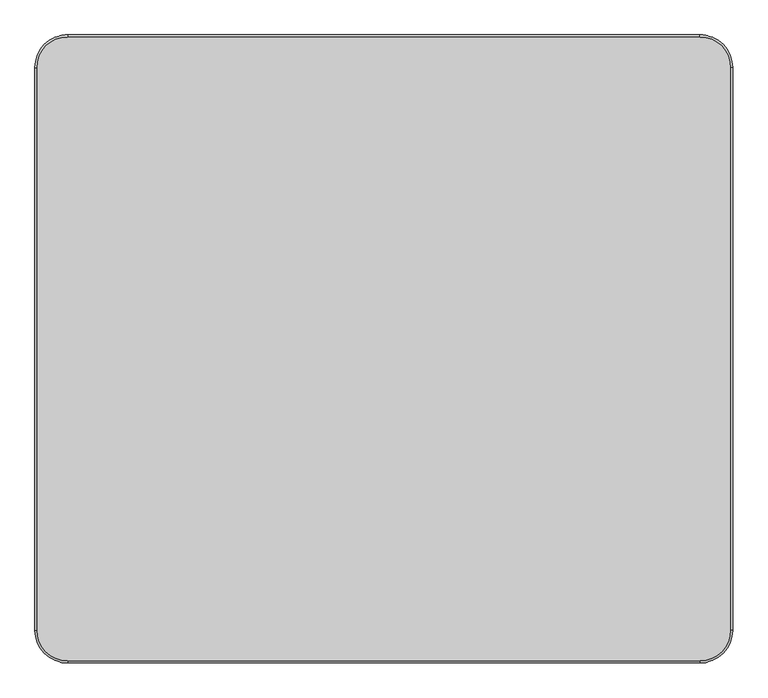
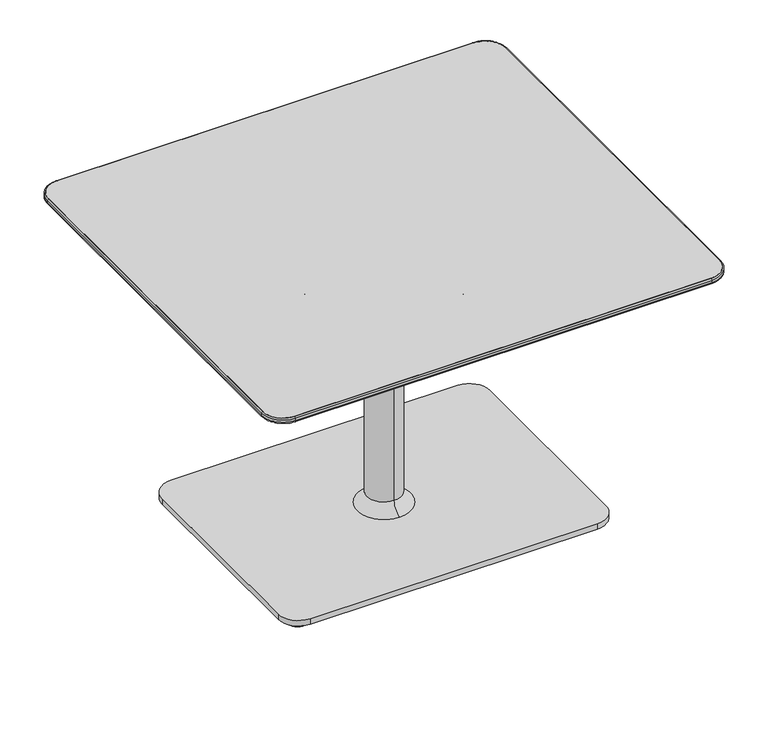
"""IFC4 building model written with IfcOpenShell, lengths in millimetres: furniture geometry, Coalesse_AM_Table_Occasional_Lagunitas_Work : 26H x 36D x 40W."""

from ifc_helpers import new_model, si_unit, point, frame, frame_2d, origin, origin_with_axes, place, context, project, spatial, polyline, circle_curve, ellipse_curve, trimmed, segment, composite_curve, outline, extrude, source, transform, mapped, element, save
from ifc_brep_helpers import plane_surface, cylinder_surface, revolved_surface, spline_surface, advanced_brep


def furniture_a224f28c(model_context):
    return source(origin(), model_context, "Body", "SolidModel", [
        advanced_brep(
        [(505.2570059, 409.7063839, 648.3724172), (460.8070059, 454.1563839, 648.3724172), (-460.1969941, 454.1563839, 648.3724172), (-504.6469941, 409.7063839, 648.3724172), (-504.6469941, -409.7063839, 648.3724172), (-460.1969941, -454.1563839, 648.3724172), (460.8070059, -454.1563839, 648.3724172), (505.2570059, -409.7063839, 648.3724172), (437.4389826, 386.3390054, 630.3099277), (437.4389826, -386.3390054, 630.3099277), (-436.8289709, -386.3390054, 630.3099277), (-436.8289709, 386.3390054, 630.3099277)],
        [
            (0, 1, circle_curve(frame((460.8070059, 409.7063839, 648.3724172), z_axis=(0.0, 0.0, 1.0), x_axis=(1.0, 0.0, 0.0)), 44.45)),
            (1, 2),
            (2, 3, circle_curve(frame((-460.1969941, 409.7063839, 648.3724172), z_axis=(0.0, 0.0, 1.0), x_axis=(1.0, 0.0, 0.0)), 44.45)),
            (3, 4),
            (4, 5, circle_curve(frame((-460.1969941, -409.7063839, 648.3724172), z_axis=(0.0, 0.0, 1.0), x_axis=(1.0, 0.0, 0.0)), 44.45)),
            (5, 6),
            (6, 7, circle_curve(frame((460.8070059, -409.7063839, 648.3724172), z_axis=(0.0, 0.0, 1.0), x_axis=(1.0, 0.0, 0.0)), 44.45)),
            (7, 0),
            (8, 9),
            (9, 10),
            (10, 11),
            (11, 8),
            (0, 8),
            (8, 1),
            (11, 2),
            (11, 3),
            (10, 4),
            (10, 5),
            (9, 6),
            (9, 7),
        ],
        [
            plane_surface(frame((0.3050059, 0.0, 648.3724172), z_axis=(0.0, 0.0, 1.0), x_axis=(-1.0, 0.0, 0.0))),
            plane_surface(frame((0.3050059, 0.0, 630.3099277), z_axis=(0.0, 0.0, -1.0), x_axis=(-1.0, 0.0, 0.0))),
            spline_surface(2, 1, [[(437.4389826, 386.3390054, 630.3099277), (505.2570059, 409.7063839, 648.3724172)], [(437.4389826, 386.3390054, 630.3099277), (505.2570059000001, 454.15638390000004, 648.3724172)], [(437.4389826, 386.3390054, 630.3099277), (460.8070059, 454.1563839, 648.3724172)]], [3, 3], [2, 2], [0.0, 1.0], [0.0, 1.0], weights=[[1.0, 1.0], [0.7071067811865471, 0.7071067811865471], [1.0, 1.0]]),
            plane_surface(frame((0.3050059, 386.3390054, 630.3099277), z_axis=(0.0, 0.2573680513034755, -0.9663134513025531), x_axis=(-1.0, 0.0, 0.0))),
            spline_surface(2, 1, [[(-436.8289709, 386.3390054, 630.3099277), (-460.1969941, 454.1563839, 648.3724172)], [(-436.8289709, 386.3390054, 630.3099277), (-504.6469941, 454.1563839, 648.3724172)], [(-436.8289709, 386.3390054, 630.3099277), (-504.6469941, 409.7063839, 648.3724172)]], [3, 3], [2, 2], [0.0, 1.0], [0.0, 1.0], weights=[[1.0, 1.0], [0.7071067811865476, 0.7071067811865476], [1.0, 1.0]]),
            plane_surface(frame((-436.8289709, 0.0, 630.3099277), z_axis=(-0.25736576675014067, 0.0, -0.9663140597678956), x_axis=(0.0, -1.0, 0.0))),
            spline_surface(2, 1, [[(-436.8289709, -386.3390054, 630.3099277), (-504.6469941, -409.7063839, 648.3724172)], [(-436.8289709, -386.3390054, 630.3099277), (-504.6469941, -454.1563839, 648.3724172)], [(-436.8289709, -386.3390054, 630.3099277), (-460.1969941, -454.1563839, 648.3724172)]], [3, 3], [2, 2], [0.0, 1.0], [0.0, 1.0], weights=[[1.0, 1.0], [0.7071067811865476, 0.7071067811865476], [1.0, 1.0]]),
            plane_surface(frame((0.3050059, -386.3390054, 630.3099277), z_axis=(0.0, -0.2573680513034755, -0.9663134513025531), x_axis=(1.0, 0.0, 0.0))),
            spline_surface(2, 1, [[(437.4389826, -386.3390054, 630.3099277), (460.8070059, -454.1563839, 648.3724172)], [(437.4389826, -386.3390054, 630.3099277), (505.25700589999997, -454.1563838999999, 648.3724172)], [(437.4389826, -386.3390054, 630.3099277), (505.2570059, -409.7063839, 648.3724172)]], [3, 3], [2, 2], [0.0, 1.0], [0.0, 1.0], weights=[[1.0, 1.0], [0.707106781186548, 0.707106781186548], [1.0, 1.0]]),
            plane_surface(frame((437.4389826, 0.0, 630.3099277), z_axis=(0.2573657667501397, 0.0, -0.966314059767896), x_axis=(0.0, 1.0, 0.0))),
        ],
        [
            (0, [[1, 2, 3, 4, 5, 6, 7, 8]]),
            (1, [[9, 10, 11, 12]]),
            (2, [[-1, 13, 14]]),
            (3, [[-12, 15, -2, -14]]),
            (4, [[-3, -15, 16]]),
            (5, [[-11, 17, -4, -16]]),
            (6, [[-5, -17, 18]]),
            (7, [[-10, 19, -6, -18]]),
            (8, [[-7, -19, 20]]),
            (9, [[-9, -13, -8, -20]]),
        ],
    ),
        extrude(outline(composite_curve([segment(trimmed(circle_curve(frame_2d((460.8070059, 409.7063839)), 44.45), [point((460.8070059, 454.1563839))], [point((505.2570059, 409.7063839))], False, "CARTESIAN"), True, "CONTINUOUS"), segment(polyline([(505.2570059, 409.7063839), (505.2570059, -409.7063839)]), True, "CONTINUOUS"), segment(trimmed(circle_curve(frame_2d((460.8070059, -409.7063839)), 44.45), [point((505.2570059, -409.7063839))], [point((460.8070059, -454.1563839))], False, "CARTESIAN"), True, "CONTINUOUS"), segment(polyline([(460.8070059, -454.1563839), (-460.1969941, -454.1563839)]), True, "CONTINUOUS"), segment(trimmed(circle_curve(frame_2d((-460.1969941, -409.7063839)), 44.45), [point((-460.1969941, -454.1563839))], [point((-504.6469941, -409.7063839))], False, "CARTESIAN"), True, "CONTINUOUS"), segment(polyline([(-504.6469941, -409.7063839), (-504.6469941, 409.7063839)]), True, "CONTINUOUS"), segment(trimmed(circle_curve(frame_2d((-460.1969941, 409.7063839)), 44.45), [point((-504.6469941, 409.7063839))], [point((-460.1969941, 454.1563839))], False, "CARTESIAN"), True, "CONTINUOUS"), segment(polyline([(-460.1969941, 454.1563839), (460.8070059, 454.1563839)]), True, "CONTINUOUS")], self_intersect=False)), frame((0.0, 0.0, 648.3724172), z_axis=(0.0, 0.0, 1.0), x_axis=(1.0, 0.0, 0.0)), (0.0, 0.0, 1.0), 12.0275828),
        extrude(outline(composite_curve([segment(trimmed(circle_curve(frame_2d((-321.7443146, 226.8029495)), 25.4), [point((-347.1443146, 226.8029495))], [point((-296.3443146, 226.8029495))], False, "CARTESIAN"), True, "CONTINUOUS"), segment(trimmed(circle_curve(frame_2d((-321.7443146, 226.8029495)), 25.4), [point((-296.3443146, 226.8029495))], [point((-347.1443146, 226.8029495))], False, "CARTESIAN"), True, "CONTINUOUS")], self_intersect=False)), origin_with_axes(), (0.0, 0.0, 1.0), 10.6571495),
        extrude(outline(composite_curve([segment(trimmed(circle_curve(frame_2d((322.3543263, 226.8029495)), 25.4), [point((296.9543263, 226.8029495))], [point((347.7543263, 226.8029495))], False, "CARTESIAN"), True, "CONTINUOUS"), segment(trimmed(circle_curve(frame_2d((322.3543263, 226.8029495)), 25.4), [point((347.7543263, 226.8029495))], [point((296.9543263, 226.8029495))], False, "CARTESIAN"), True, "CONTINUOUS")], self_intersect=False)), origin_with_axes(), (0.0, 0.0, 1.0), 10.6571495),
        extrude(outline(composite_curve([segment(trimmed(circle_curve(frame_2d((322.3543263, -226.8029495)), 25.4), [point((296.9543263, -226.8029495))], [point((347.7543263, -226.8029495))], False, "CARTESIAN"), True, "CONTINUOUS"), segment(trimmed(circle_curve(frame_2d((322.3543263, -226.8029495)), 25.4), [point((347.7543263, -226.8029495))], [point((296.9543263, -226.8029495))], False, "CARTESIAN"), True, "CONTINUOUS")], self_intersect=False)), origin_with_axes(), (0.0, 0.0, 1.0), 10.6571495),
        extrude(outline(composite_curve([segment(trimmed(circle_curve(frame_2d((-321.7443146, -226.8029495)), 25.4), [point((-347.1443146, -226.8029495))], [point((-296.3443146, -226.8029495))], False, "CARTESIAN"), True, "CONTINUOUS"), segment(trimmed(circle_curve(frame_2d((-321.7443146, -226.8029495)), 25.4), [point((-296.3443146, -226.8029495))], [point((-347.1443146, -226.8029495))], False, "CARTESIAN"), True, "CONTINUOUS")], self_intersect=False)), origin_with_axes(), (0.0, 0.0, 1.0), 10.6571495),
        extrude(outline(composite_curve([segment(trimmed(circle_curve(frame_2d((317.8050059, 222.2481833)), 44.45), [point((317.8050059, 266.6981833))], [point((362.2550059, 222.2481833))], False, "CARTESIAN"), True, "CONTINUOUS"), segment(polyline([(362.2550059, 222.2481833), (362.2550059, -222.2481833)]), True, "CONTINUOUS"), segment(trimmed(circle_curve(frame_2d((317.8050059, -222.2481833)), 44.45), [point((362.2550059, -222.2481833))], [point((317.8050059, -266.6981833))], False, "CARTESIAN"), True, "CONTINUOUS"), segment(polyline([(317.8050059, -266.6981833), (-317.1949941, -266.6981833)]), True, "CONTINUOUS"), segment(trimmed(circle_curve(frame_2d((-317.1949941, -222.2481833)), 44.45), [point((-317.1949941, -266.6981833))], [point((-361.6449941, -222.2481833))], False, "CARTESIAN"), True, "CONTINUOUS"), segment(polyline([(-361.6449941, -222.2481833), (-361.6449941, 222.2481833)]), True, "CONTINUOUS"), segment(trimmed(circle_curve(frame_2d((-317.1949941, 222.2481833)), 44.45), [point((-361.6449941, 222.2481833))], [point((-317.1949941, 266.6981833))], False, "CARTESIAN"), True, "CONTINUOUS"), segment(polyline([(-317.1949941, 266.6981833), (317.8050059, 266.6981833)]), True, "CONTINUOUS")], self_intersect=False)), frame((0.0, 0.0, 10.6571495), z_axis=(0.0, 0.0, 1.0), x_axis=(1.0, 0.0, 0.0)), (0.0, 0.0, 1.0), 12.7000004),
        advanced_brep(
        [(-507.6930954, 409.7063839, 652.1656816), (-460.1969941, 457.2024852, 652.1656816), (-460.1969941, 454.1563839, 648.3724172), (-504.6469941, 409.7063839, 648.3724172), (-507.6930954, 409.7063839, 657.3538988), (-460.1969941, 457.2024852, 657.3538988), (-504.6469941, 409.7063839, 660.4), (-460.1969941, 454.1563839, 660.4), (-504.6469941, -409.7063839, 648.3724172), (-507.6930954, -409.7063839, 652.1656816), (-507.6930954, -409.7063839, 657.3538988), (-504.6469941, -409.7063839, 660.4), (-460.1969941, -457.2024852, 652.1656816), (-460.1969941, -454.1563839, 648.3724172), (-460.1969941, -457.2024852, 657.3538988), (-460.1969941, -454.1563839, 660.4), (460.8070059, -454.1563839, 648.3724172), (460.8070059, -457.2024852, 652.1656816), (460.8070059, -457.2024852, 657.3538988), (460.8070059, -454.1563839, 660.4), (508.3031071, -409.7063839, 652.1656816), (505.2570059, -409.7063839, 648.3724172), (508.3031071, -409.7063839, 657.3538988), (505.2570059, -409.7063839, 660.4), (505.2570059, 409.7063839, 648.3724172), (508.3031071, 409.7063839, 652.1656816), (508.3031071, 409.7063839, 657.3538988), (505.2570059, 409.7063839, 660.4), (460.8070059, 457.2024852, 652.1656816), (460.8070059, 454.1563839, 648.3724172), (460.8070059, 457.2024852, 657.3538988), (460.8070059, 454.1563839, 660.4)],
        [
            (0, 1, circle_curve(frame((-460.1969941, 409.7063839, 652.1656816), z_axis=(0.0, 0.0, -1.0), x_axis=(0.0, 1.0, 0.0)), 47.4961012)),
            (1, 2, circle_curve(frame((-460.1969941, 453.3175869, 652.1656816), z_axis=(-1.0, 0.0, 0.0), x_axis=(0.0, -1.0, 0.0)), 3.8848983)),
            (2, 3, circle_curve(frame((-460.1969941, 409.7063839, 648.3724172), z_axis=(0.0, 0.0, 1.0), x_axis=(0.0, 1.0, 0.0)), 44.45)),
            (3, 0, circle_curve(frame((-503.8081971, 409.7063839, 652.1656816), z_axis=(0.0, 1.0, 0.0), x_axis=(1.0, 0.0, 0.0)), 3.8848983)),
            (4, 5, circle_curve(frame((-460.1969941, 409.7063839, 657.3538988), z_axis=(0.0, 0.0, -1.0), x_axis=(0.0, 1.0, 0.0)), 47.4961012)),
            (5, 1),
            (0, 4),
            (6, 7, circle_curve(frame((-460.1969941, 409.7063839, 660.4), z_axis=(0.0, 0.0, -1.0), x_axis=(0.0, 1.0, 0.0)), 44.45)),
            (7, 5, circle_curve(frame((-460.1969941, 454.1563839, 657.3538988), z_axis=(-1.0, 0.0, 0.0), x_axis=(0.0, -1.0, 0.0)), 3.0461012)),
            (4, 6, circle_curve(frame((-504.6469941, 409.7063839, 657.3538988), z_axis=(0.0, 1.0, 0.0), x_axis=(1.0, 0.0, 0.0)), 3.0461012)),
            (2, 7),
            (6, 3),
            (3, 8),
            (8, 9, circle_curve(frame((-503.8081971, -409.7063839, 652.1656816), z_axis=(0.0, 1.0, 0.0), x_axis=(1.0, 0.0, 0.0)), 3.8848983)),
            (9, 0),
            (9, 10),
            (10, 4),
            (10, 11, circle_curve(frame((-504.6469941, -409.7063839, 657.3538988), z_axis=(0.0, 1.0, 0.0), x_axis=(1.0, 0.0, 0.0)), 3.0461012)),
            (11, 6),
            (11, 8),
            (12, 9, circle_curve(frame((-460.1969941, -409.7063839, 652.1656816), z_axis=(0.0, 0.0, -1.0), x_axis=(-1.0, 0.0, 0.0)), 47.4961012)),
            (8, 13, circle_curve(frame((-460.1969941, -409.7063839, 648.3724172), z_axis=(0.0, 0.0, 1.0), x_axis=(-1.0, 0.0, 0.0)), 44.45)),
            (13, 12, circle_curve(frame((-460.1969941, -453.3175869, 652.1656816), z_axis=(-1.0, 0.0, 0.0), x_axis=(0.0, 1.0, 0.0)), 3.8848983)),
            (14, 10, circle_curve(frame((-460.1969941, -409.7063839, 657.3538988), z_axis=(0.0, 0.0, -1.0), x_axis=(-1.0, 0.0, 0.0)), 47.4961012)),
            (12, 14),
            (15, 11, circle_curve(frame((-460.1969941, -409.7063839, 660.4), z_axis=(0.0, 0.0, -1.0), x_axis=(-1.0, 0.0, 0.0)), 44.45)),
            (14, 15, circle_curve(frame((-460.1969941, -454.1563839, 657.3538988), z_axis=(-1.0, 0.0, 0.0), x_axis=(0.0, 1.0, 0.0)), 3.0461012)),
            (15, 13),
            (13, 16),
            (16, 17, circle_curve(frame((460.8070059, -453.3175869, 652.1656816), z_axis=(-1.0, 0.0, 0.0), x_axis=(0.0, 1.0, 0.0)), 3.8848983)),
            (17, 12),
            (17, 18),
            (18, 14),
            (18, 19, circle_curve(frame((460.8070059, -454.1563839, 657.3538988), z_axis=(-1.0, 0.0, 0.0), x_axis=(0.0, 1.0, 0.0)), 3.0461012)),
            (19, 15),
            (19, 16),
            (20, 17, circle_curve(frame((460.8070059, -409.7063839, 652.1656816), z_axis=(0.0, 0.0, -1.0), x_axis=(0.0, -1.0, 0.0)), 47.4961012)),
            (16, 21, circle_curve(frame((460.8070059, -409.7063839, 648.3724172), z_axis=(0.0, 0.0, 1.0), x_axis=(0.0, -1.0, 0.0)), 44.45)),
            (21, 20, circle_curve(frame((504.4182088, -409.7063839, 652.1656816), z_axis=(0.0, -1.0, 0.0), x_axis=(-1.0, 0.0, 0.0)), 3.8848983)),
            (22, 18, circle_curve(frame((460.8070059, -409.7063839, 657.3538988), z_axis=(0.0, 0.0, -1.0), x_axis=(0.0, -1.0, 0.0)), 47.4961012)),
            (20, 22),
            (23, 19, circle_curve(frame((460.8070059, -409.7063839, 660.4), z_axis=(0.0, 0.0, -1.0), x_axis=(0.0, -1.0, 0.0)), 44.45)),
            (22, 23, circle_curve(frame((505.2570059, -409.7063839, 657.3538988), z_axis=(0.0, -1.0, 0.0), x_axis=(-1.0, 0.0, 0.0)), 3.0461012)),
            (23, 21),
            (21, 24),
            (24, 25, circle_curve(frame((504.4182088, 409.7063839, 652.1656816), z_axis=(0.0, -1.0, 0.0), x_axis=(-1.0, 0.0, 0.0)), 3.8848983)),
            (25, 20),
            (25, 26),
            (26, 22),
            (26, 27, circle_curve(frame((505.2570059, 409.7063839, 657.3538988), z_axis=(0.0, -1.0, 0.0), x_axis=(-1.0, 0.0, 0.0)), 3.0461012)),
            (27, 23),
            (27, 24),
            (28, 25, circle_curve(frame((460.8070059, 409.7063839, 652.1656816), z_axis=(0.0, 0.0, -1.0), x_axis=(1.0, 0.0, 0.0)), 47.4961012)),
            (24, 29, circle_curve(frame((460.8070059, 409.7063839, 648.3724172), z_axis=(0.0, 0.0, 1.0), x_axis=(1.0, 0.0, 0.0)), 44.45)),
            (29, 28, circle_curve(frame((460.8070059, 453.3175869, 652.1656816), z_axis=(1.0, 0.0, 0.0), x_axis=(0.0, -1.0, 0.0)), 3.8848983)),
            (30, 26, circle_curve(frame((460.8070059, 409.7063839, 657.3538988), z_axis=(0.0, 0.0, -1.0), x_axis=(1.0, 0.0, 0.0)), 47.4961012)),
            (28, 30),
            (31, 27, circle_curve(frame((460.8070059, 409.7063839, 660.4), z_axis=(0.0, 0.0, -1.0), x_axis=(1.0, 0.0, 0.0)), 44.45)),
            (30, 31, circle_curve(frame((460.8070059, 454.1563839, 657.3538988), z_axis=(1.0, 0.0, 0.0), x_axis=(0.0, -1.0, 0.0)), 3.0461012)),
            (31, 29),
            (29, 2),
            (1, 28),
            (5, 30),
            (7, 31),
        ],
        [
            revolved_surface(trimmed(ellipse_curve(frame((-460.1969941, 453.3175869, 652.1656816), z_axis=(1.0, 0.0, 0.0), x_axis=(0.0, -1.0, 0.0)), 3.8848983, 3.8848983), [point((-460.1969941, 454.1563839, 648.3724172))], [point((-460.1969941, 457.2024852, 652.1656816))], True, "CARTESIAN"), (-460.1969941, 409.7063839, 0.0), (0.0, 0.0, 1.0)),
            cylinder_surface(frame((-460.1969941, 409.7063839, 0.0), z_axis=(0.0, 0.0, 1.0), x_axis=(0.0, 1.0, 0.0)), 47.4961012),
            revolved_surface(trimmed(ellipse_curve(frame((-460.1969941, 454.1563839, 657.3538988), z_axis=(1.0, 0.0, 0.0), x_axis=(0.0, -1.0, 0.0)), 3.0461012, 3.0461012), [point((-460.1969941, 457.2024852, 657.3538988))], [point((-460.1969941, 454.1563839, 660.4))], True, "CARTESIAN"), (-460.1969941, 409.7063839, 0.0), (0.0, 0.0, 1.0)),
            revolved_surface(polyline([(-460.1969941, 454.1563839, 660.4), (-460.1969941, 454.1563839, 648.3724172)]), (-460.1969941, 409.7063839, 0.0), (0.0, 0.0, 1.0)),
            cylinder_surface(frame((-503.8081971, 409.7063839, 652.1656816), z_axis=(0.0, 1.0, 0.0), x_axis=(1.0, 0.0, 0.0)), 3.8848983),
            plane_surface(frame((-507.6930954, 409.7063839, 652.1656816), z_axis=(-1.0, 0.0, 0.0), x_axis=(0.0, -1.0, 0.0))),
            cylinder_surface(frame((-504.6469941, 409.7063839, 657.3538988), z_axis=(0.0, 1.0, 0.0), x_axis=(1.0, 0.0, 0.0)), 3.0461012),
            plane_surface(frame((-504.6469941, 409.7063839, 660.4), z_axis=(1.0, 0.0, 0.0), x_axis=(0.0, -1.0, 0.0))),
            revolved_surface(trimmed(ellipse_curve(frame((-503.8081971, -409.7063839, 652.1656816), z_axis=(0.0, 1.0, 0.0), x_axis=(1.0, 0.0, 0.0)), 3.8848983, 3.8848983), [point((-504.6469941, -409.7063839, 648.3724172))], [point((-507.6930954, -409.7063839, 652.1656816))], True, "CARTESIAN"), (-460.1969941, -409.7063839, 0.0), (0.0, 0.0, 1.0)),
            cylinder_surface(frame((-460.1969941, -409.7063839, 0.0), z_axis=(0.0, 0.0, 1.0), x_axis=(-1.0, 0.0, 0.0)), 47.4961012),
            revolved_surface(trimmed(ellipse_curve(frame((-504.6469941, -409.7063839, 657.3538988), z_axis=(0.0, 1.0, 0.0), x_axis=(1.0, 0.0, 0.0)), 3.0461012, 3.0461012), [point((-507.6930954, -409.7063839, 657.3538988))], [point((-504.6469941, -409.7063839, 660.4))], True, "CARTESIAN"), (-460.1969941, -409.7063839, 0.0), (0.0, 0.0, 1.0)),
            revolved_surface(polyline([(-504.6469941, -409.7063839, 660.4), (-504.6469941, -409.7063839, 648.3724172)]), (-460.1969941, -409.7063839, 0.0), (0.0, 0.0, 1.0)),
            cylinder_surface(frame((-460.1969941, -453.3175869, 652.1656816), z_axis=(-1.0, 0.0, 0.0), x_axis=(0.0, 1.0, 0.0)), 3.8848983),
            plane_surface(frame((-460.1969941, -457.2024852, 652.1656816), z_axis=(0.0, -1.0, 0.0), x_axis=(1.0, 0.0, 0.0))),
            cylinder_surface(frame((-460.1969941, -454.1563839, 657.3538988), z_axis=(-1.0, 0.0, 0.0), x_axis=(0.0, 1.0, 0.0)), 3.0461012),
            plane_surface(frame((-460.1969941, -454.1563839, 660.4), z_axis=(0.0, 1.0, 0.0), x_axis=(1.0, 0.0, 0.0))),
            revolved_surface(trimmed(ellipse_curve(frame((460.8070059, -453.3175869, 652.1656816), z_axis=(-1.0, 0.0, 0.0), x_axis=(0.0, 1.0, 0.0)), 3.8848983, 3.8848983), [point((460.8070059, -454.1563839, 648.3724172))], [point((460.8070059, -457.2024852, 652.1656816))], True, "CARTESIAN"), (460.8070059, -409.7063839, 0.0), (0.0, 0.0, 1.0)),
            cylinder_surface(frame((460.8070059, -409.7063839, 0.0), z_axis=(0.0, 0.0, 1.0), x_axis=(0.0, -1.0, 0.0)), 47.4961012),
            revolved_surface(trimmed(ellipse_curve(frame((460.8070059, -454.1563839, 657.3538988), z_axis=(-1.0, 0.0, 0.0), x_axis=(0.0, 1.0, 0.0)), 3.0461012, 3.0461012), [point((460.8070059, -457.2024852, 657.3538988))], [point((460.8070059, -454.1563839, 660.4))], True, "CARTESIAN"), (460.8070059, -409.7063839, 0.0), (0.0, 0.0, 1.0)),
            revolved_surface(polyline([(460.8070059, -454.1563839, 660.4), (460.8070059, -454.1563839, 648.3724172)]), (460.8070059, -409.7063839, 0.0), (0.0, 0.0, 1.0)),
            cylinder_surface(frame((504.4182088, -409.7063839, 652.1656816), z_axis=(0.0, -1.0, 0.0), x_axis=(-1.0, 0.0, 0.0)), 3.8848983),
            plane_surface(frame((508.3031071, -409.7063839, 652.1656816), z_axis=(1.0, 0.0, 0.0), x_axis=(0.0, 1.0, 0.0))),
            cylinder_surface(frame((505.2570059, -409.7063839, 657.3538988), z_axis=(0.0, -1.0, 0.0), x_axis=(-1.0, 0.0, 0.0)), 3.0461012),
            plane_surface(frame((505.2570059, -409.7063839, 660.4), z_axis=(-1.0, 0.0, 0.0), x_axis=(0.0, 1.0, 0.0))),
            revolved_surface(trimmed(ellipse_curve(frame((504.4182088, 409.7063839, 652.1656816), z_axis=(0.0, -1.0, 0.0), x_axis=(-1.0, 0.0, 0.0)), 3.8848983, 3.8848983), [point((505.2570059, 409.7063839, 648.3724172))], [point((508.3031071, 409.7063839, 652.1656816))], True, "CARTESIAN"), (460.8070059, 409.7063839, 0.0), (0.0, 0.0, 1.0)),
            cylinder_surface(frame((460.8070059, 409.7063839, 0.0), z_axis=(0.0, 0.0, 1.0), x_axis=(1.0, 0.0, 0.0)), 47.4961012),
            revolved_surface(trimmed(ellipse_curve(frame((505.2570059, 409.7063839, 657.3538988), z_axis=(0.0, -1.0, 0.0), x_axis=(-1.0, 0.0, 0.0)), 3.0461012, 3.0461012), [point((508.3031071, 409.7063839, 657.3538988))], [point((505.2570059, 409.7063839, 660.4))], True, "CARTESIAN"), (460.8070059, 409.7063839, 0.0), (0.0, 0.0, 1.0)),
            revolved_surface(polyline([(505.25700589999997, 409.7063839, 660.4), (505.25700589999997, 409.7063839, 648.3724172)]), (460.8070059, 409.7063839, 0.0), (0.0, 0.0, 1.0)),
            cylinder_surface(frame((460.8070059, 453.3175869, 652.1656816), z_axis=(1.0, 0.0, 0.0), x_axis=(0.0, -1.0, 0.0)), 3.8848983),
            plane_surface(frame((460.8070059, 457.2024852, 652.1656816), z_axis=(0.0, 1.0, 0.0), x_axis=(-1.0, 0.0, 0.0))),
            cylinder_surface(frame((460.8070059, 454.1563839, 657.3538988), z_axis=(1.0, 0.0, 0.0), x_axis=(0.0, -1.0, 0.0)), 3.0461012),
            plane_surface(frame((460.8070059, 454.1563839, 660.4), z_axis=(0.0, -1.0, 0.0), x_axis=(-1.0, 0.0, 0.0))),
        ],
        [
            (0, [[1, 2, 3, 4]]),
            (1, [[5, 6, -1, 7]]),
            (2, [[8, 9, -5, 10]]),
            (3, [[-3, 11, -8, 12]]),
            (4, [[-4, 13, 14, 15]]),
            (5, [[-7, -15, 16, 17]]),
            (6, [[-10, -17, 18, 19]]),
            (7, [[-12, -19, 20, -13]]),
            (8, [[21, -14, 22, 23]]),
            (9, [[24, -16, -21, 25]]),
            (10, [[26, -18, -24, 27]]),
            (11, [[-22, -20, -26, 28]]),
            (12, [[-23, 29, 30, 31]]),
            (13, [[-25, -31, 32, 33]]),
            (14, [[-27, -33, 34, 35]]),
            (15, [[-28, -35, 36, -29]]),
            (16, [[37, -30, 38, 39]]),
            (17, [[40, -32, -37, 41]]),
            (18, [[42, -34, -40, 43]]),
            (19, [[-38, -36, -42, 44]]),
            (20, [[-39, 45, 46, 47]]),
            (21, [[-41, -47, 48, 49]]),
            (22, [[-43, -49, 50, 51]]),
            (23, [[-44, -51, 52, -45]]),
            (24, [[53, -46, 54, 55]]),
            (25, [[56, -48, -53, 57]]),
            (26, [[58, -50, -56, 59]]),
            (27, [[-54, -52, -58, 60]]),
            (28, [[-55, 61, -2, 62]]),
            (29, [[-57, -62, -6, 63]]),
            (30, [[-59, -63, -9, 64]]),
            (31, [[-60, -64, -11, -61]]),
        ],
    ),
        advanced_brep(
        [(0.3050059, -37.9287895, 500.8567695), (0.3050059, 37.9287895, 500.8567695), (0.3050059, 37.9287895, 50.0429711), (0.3050059, -37.9287895, 50.0429711), (0.3050059, -59.3395816, 538.8698908), (0.3050059, 59.3395816, 538.8698908), (0.3050059, -197.9068019, 622.8534968), (0.3050059, 197.9068019, 622.8534968), (0.3050059, -212.4265152, 626.9101307), (0.3050059, 212.4265152, 626.9101307), (0.3050059, -226.4292749, 626.9101307), (0.3050059, 226.4292749, 626.9101307), (0.3050059, -228.4774392, 630.3099277), (0.3050059, 228.4774392, 630.3099277), (0.3050059, 0.0, 630.3099277), (0.3050059, -60.2304855, 23.3571499), (0.3050059, 60.2304855, 23.3571499), (0.3050059, 0.0, 23.3571499)],
        [
            (0, 1, circle_curve(frame((0.3050059, 0.0, 500.8567695), z_axis=(0.0, 0.0, -1.0), x_axis=(0.0, 1.0, 0.0)), 37.9287895)),
            (1, 2),
            (2, 3, circle_curve(frame((0.3050059, 0.0, 50.0429711), z_axis=(0.0, 0.0, 1.0), x_axis=(0.0, 1.0, 0.0)), 37.9287895)),
            (3, 0),
            (1, 0, circle_curve(frame((0.3050059, 0.0, 500.8567695), z_axis=(0.0, 0.0, -1.0), x_axis=(0.0, 1.0, 0.0)), 37.9287895)),
            (3, 2, circle_curve(frame((0.3050059, 0.0, 50.0429711), z_axis=(0.0, 0.0, 1.0), x_axis=(0.0, 1.0, 0.0)), 37.9287895)),
            (4, 5, circle_curve(frame((0.3050059, 0.0, 538.8698908), z_axis=(0.0, 0.0, -1.0), x_axis=(0.0, 1.0, 0.0)), 59.3395816)),
            (5, 1, circle_curve(frame((0.3050059, 82.3787895, 500.8567695), z_axis=(1.0, 0.0, 0.0), x_axis=(0.0, 1.0, 0.0)), 44.45)),
            (0, 4, circle_curve(frame((0.3050059, -82.3787895, 500.8567695), z_axis=(1.0, 0.0, 0.0), x_axis=(0.0, -1.0, 0.0)), 44.45)),
            (5, 4, circle_curve(frame((0.3050059, 0.0, 538.8698908), z_axis=(0.0, 0.0, -1.0), x_axis=(0.0, 1.0, 0.0)), 59.3395816)),
            (6, 7, circle_curve(frame((0.3050059, 0.0, 622.8534968), z_axis=(0.0, 0.0, -1.0), x_axis=(0.0, 1.0, 0.0)), 197.9068019)),
            (7, 5),
            (4, 6),
            (7, 6, circle_curve(frame((0.3050059, 0.0, 622.8534968), z_axis=(0.0, 0.0, -1.0), x_axis=(0.0, 1.0, 0.0)), 197.9068019)),
            (8, 9, circle_curve(frame((0.3050059, 0.0, 626.9101307), z_axis=(0.0, 0.0, -1.0), x_axis=(0.0, 1.0, 0.0)), 212.4265152)),
            (9, 7, circle_curve(frame((0.3050059, 212.4265152, 598.8969605), z_axis=(1.0, 0.0, 0.0), x_axis=(0.0, 1.0, 0.0)), 28.0131702)),
            (6, 8, circle_curve(frame((0.3050059, -212.4265152, 598.8969605), z_axis=(1.0, 0.0, 0.0), x_axis=(0.0, -1.0, 0.0)), 28.0131702)),
            (9, 8, circle_curve(frame((0.3050059, 0.0, 626.9101307), z_axis=(0.0, 0.0, -1.0), x_axis=(0.0, 1.0, 0.0)), 212.4265152)),
            (10, 11, circle_curve(frame((0.3050059, 0.0, 626.9101307), z_axis=(0.0, 0.0, -1.0), x_axis=(0.0, 1.0, 0.0)), 226.4292749)),
            (11, 9),
            (8, 10),
            (11, 10, circle_curve(frame((0.3050059, 0.0, 626.9101307), z_axis=(0.0, 0.0, -1.0), x_axis=(0.0, 1.0, 0.0)), 226.4292749)),
            (12, 13, circle_curve(frame((0.3050059, 0.0, 630.3099277), z_axis=(0.0, 0.0, -1.0), x_axis=(0.0, 1.0, 0.0)), 228.4774392)),
            (13, 11, circle_curve(frame((0.3050059, 226.4292749, 629.2269744), z_axis=(-1.0, 0.0, 0.0), x_axis=(0.0, 1.0, 0.0)), 2.3168437)),
            (10, 12, circle_curve(frame((0.3050059, -226.4292749, 629.2269744), z_axis=(-1.0, 0.0, 0.0), x_axis=(0.0, -1.0, 0.0)), 2.3168437)),
            (13, 12, circle_curve(frame((0.3050059, 0.0, 630.3099277), z_axis=(0.0, 0.0, -1.0), x_axis=(0.0, 1.0, 0.0)), 228.4774392)),
            (14, 13),
            (12, 14),
            (15, 16, circle_curve(frame((0.3050059, 0.0, 23.3571499), z_axis=(0.0, 0.0, -1.0), x_axis=(0.0, 1.0, 0.0)), 60.2304855)),
            (16, 17),
            (17, 15),
            (16, 15, circle_curve(frame((0.3050059, 0.0, 23.3571499), z_axis=(0.0, 0.0, -1.0), x_axis=(0.0, 1.0, 0.0)), 60.2304855)),
            (2, 16, circle_curve(frame((0.3050059, 65.045532, 50.0429711), z_axis=(1.0, 0.0, 0.0), x_axis=(0.0, 1.0, 0.0)), 27.1167425)),
            (15, 3, circle_curve(frame((0.3050059, -65.045532, 50.0429711), z_axis=(1.0, 0.0, 0.0), x_axis=(0.0, -1.0, 0.0)), 27.1167425)),
        ],
        [
            cylinder_surface(frame((0.3050059, 0.0, 738.2745102), z_axis=(0.0, 0.0, 1.0), x_axis=(0.0, 1.0, 0.0)), 37.9287895),
            revolved_surface(trimmed(ellipse_curve(frame((0.3050059, 82.3787895, 500.8567695), z_axis=(-1.0, 0.0, 0.0), x_axis=(0.0, 1.0, 0.0)), 44.45, 44.45), [point((0.3050059, 37.9287895, 500.8567695))], [point((0.3050059, 59.3395816, 538.8698908))], True, "CARTESIAN"), (0.3050059, 0.0, 738.2745102), (0.0, 0.0, 1.0)),
            revolved_surface(polyline([(0.3050059, 59.3395816, 538.8698908), (0.3050059, 197.9068019, 622.8534968)]), (0.3050059, 0.0, 738.2745102), (0.0, 0.0, 1.0)),
            revolved_surface(trimmed(ellipse_curve(frame((0.3050059, 212.4265152, 598.8969605), z_axis=(-1.0, 0.0, 0.0), x_axis=(0.0, 1.0, 0.0)), 28.0131702, 28.0131702), [point((0.3050059, 197.9068019, 622.8534968))], [point((0.3050059, 212.4265152, 626.9101307))], True, "CARTESIAN"), (0.3050059, 0.0, 738.2745102), (0.0, 0.0, 1.0)),
            plane_surface(frame((0.3050059, 0.0, 626.9101307), z_axis=(0.0, 0.0, -1.0), x_axis=(0.0, 1.0, 0.0))),
            revolved_surface(trimmed(ellipse_curve(frame((0.3050059, 226.4292749, 629.2269744), z_axis=(1.0, 0.0, 0.0), x_axis=(0.0, 1.0, 0.0)), 2.3168437, 2.3168437), [point((0.3050059, 226.4292749, 626.9101307))], [point((0.3050059, 228.4774392, 630.3099277))], True, "CARTESIAN"), (0.3050059, 0.0, 738.2745102), (0.0, 0.0, 1.0)),
            plane_surface(frame((0.3050059, 0.0, 630.3099277), z_axis=(0.0, 0.0, 1.0), x_axis=(0.0, 1.0, 0.0))),
            plane_surface(frame((0.3050059, 0.0, 23.3571499), z_axis=(0.0, 0.0, -1.0), x_axis=(0.0, 1.0, 0.0))),
            revolved_surface(trimmed(ellipse_curve(frame((0.3050059, 65.045532, 50.0429711), z_axis=(-1.0, 0.0, 0.0), x_axis=(0.0, 1.0, 0.0)), 27.1167425, 27.1167425), [point((0.3050059, 60.2304855, 23.3571499))], [point((0.3050059, 37.9287895, 50.0429711))], True, "CARTESIAN"), (0.3050059, 0.0, 738.2745102), (0.0, 0.0, 1.0)),
        ],
        [
            (0, [[1, 2, 3, 4]]),
            (0, [[5, -4, 6, -2]]),
            (1, [[7, 8, -1, 9]]),
            (1, [[10, -9, -5, -8]]),
            (2, [[11, 12, -7, 13]]),
            (2, [[14, -13, -10, -12]]),
            (3, [[15, 16, -11, 17]]),
            (3, [[18, -17, -14, -16]]),
            (4, [[19, 20, -15, 21]]),
            (4, [[22, -21, -18, -20]]),
            (5, [[23, 24, -19, 25]]),
            (5, [[26, -25, -22, -24]]),
            (6, [[27, -23, 28]]),
            (6, [[-28, -26, -27]]),
            (7, [[29, 30, 31]]),
            (7, [[32, -31, -30]]),
            (8, [[-3, 33, -29, 34]]),
            (8, [[-6, -34, -32, -33]]),
        ],
    ),
    ])


if __name__ == "__main__":
    model = new_model("IFC4")
    model_context = context("Model", 3, world=origin())
    ifc_project = project(units=[si_unit("LENGTHUNIT", "METRE", prefix="MILLI")], contexts=[model_context])
    site = spatial("IfcSite", under=ifc_project)
    building = spatial("IfcBuilding", under=site)
    placement = place(None, origin())
    furniture_shape = furniture_a224f28c(model_context)
    element("IfcFurniture", 1, ObjectType="Coalesse_AM_Table_Occasional_Lagunitas_Work : 26H x 36D x 40W", at=placement, inside=building, context=model_context, shape_type="MappedRepresentation", body=[
        mapped(furniture_shape, transform((0.0, 0.0, 0.0), x_axis=(1.0, 0.0, 0.0), y_axis=(0.0, 1.0, 0.0), z_axis=(0.0, 0.0, 1.0))),
    ])
    save(model, "model.ifc")
